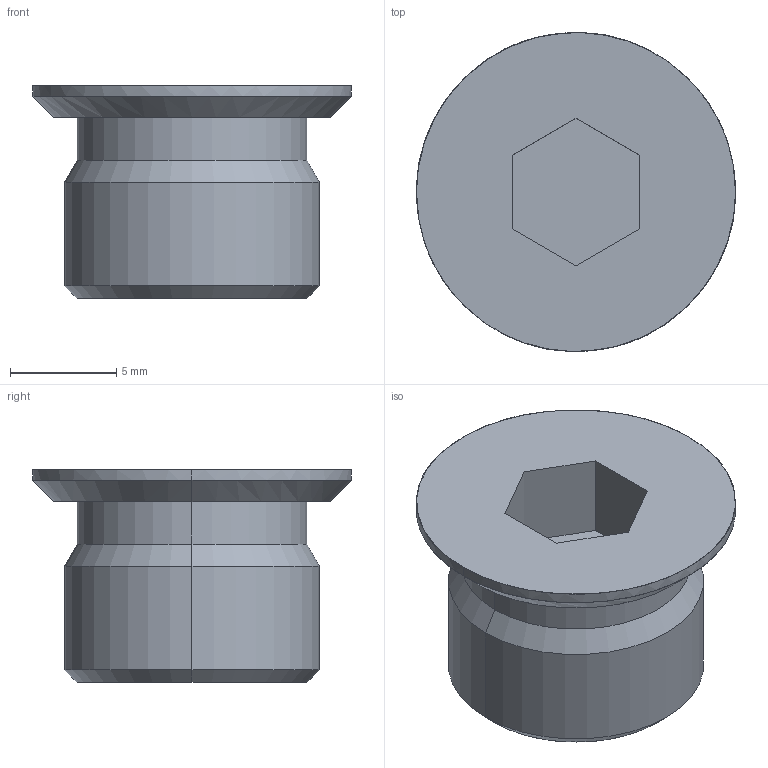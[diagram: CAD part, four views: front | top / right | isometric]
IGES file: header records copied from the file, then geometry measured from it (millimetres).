
Global section: file name: E:\UnigraphicsGraphicData\MISUMI_PRESS-PARTS\IGES\3d_mswzs12-10_00490_r00.igs; native system: NX V5.0; preprocessor: UGS NX IGES V5.0; author: MISUMI; date: 20110105.161530; units: millimetre
Bounding box: 15 x 15 x 10 mm (x, y, z)
Surface area: 803.8 mm2 (no closed solid volume)
Topology: 0 solids, 0 shells, 22 faces, 116 edges, 116 vertices
Faces by surface type: bspline 22
